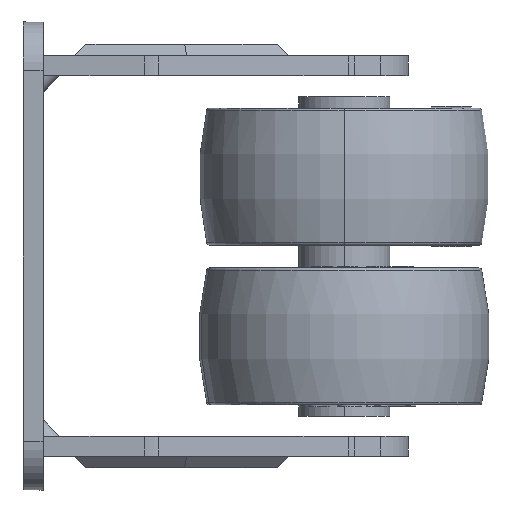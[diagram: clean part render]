
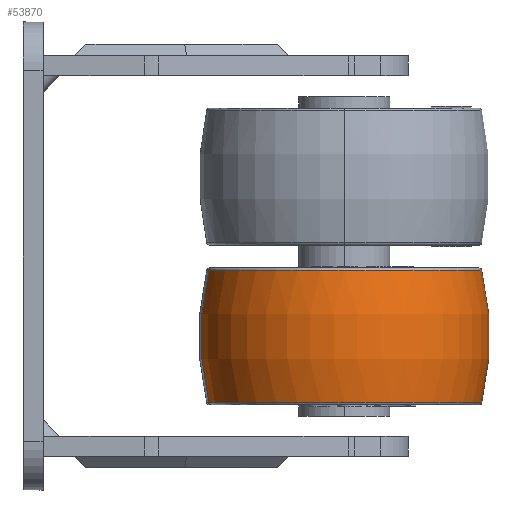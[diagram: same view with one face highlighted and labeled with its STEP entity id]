
A CAD part, left-side view. The second image highlights one B-rep face of the part: STEP entity #53870.
In plain terms, the highlighted toroidal (fillet/blend) face has major radius 23.25 mm and minor radius 48.75 mm.
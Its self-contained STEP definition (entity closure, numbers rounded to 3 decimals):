
#1228 = TOROIDAL_SURFACE ( 'NONE', #64703, -23.25, 48.75 ) ;
#1666 = AXIS2_PLACEMENT_3D ( 'NONE', #25641, #70426, #36494 ) ;
#7516 = AXIS2_PLACEMENT_3D ( 'NONE', #70399, #48378, #54291 ) ;
#8677 = CARTESIAN_POINT ( 'NONE',  ( 7.307, -63.384, -17.218 ) ) ;
#11231 = CIRCLE ( 'NONE', #69816, 48.75 ) ;
#12347 = CARTESIAN_POINT ( 'NONE',  ( 15.529, -110.01, -28.838 ) ) ;
#13078 = DIRECTION ( 'NONE',  ( 0.174, -0.985, 0. ) ) ;
#14050 = DIRECTION ( 'NONE',  ( -0.174, 0.985, 0. ) ) ;
#14513 = ORIENTED_EDGE ( 'NONE', *, *, #33257, .T. ) ;
#17038 = CARTESIAN_POINT ( 'NONE',  ( 15.675, -110.842, -40.457 ) ) ;
#17635 = ORIENTED_EDGE ( 'NONE', *, *, #55990, .F. ) ;
#18008 = CIRCLE ( 'NONE', #69623, 24.095 ) ;
#18080 = FACE_OUTER_BOUND ( 'NONE', #31165, .T. ) ;
#18464 = VERTEX_POINT ( 'NONE', #43134 ) ;
#21388 = ORIENTED_EDGE ( 'NONE', *, *, #53910, .T. ) ;
#22797 = CIRCLE ( 'NONE', #7516, 48.75 ) ;
#25641 = CARTESIAN_POINT ( 'NONE',  ( 11.491, -87.113, -17.218 ) ) ;
#28514 = CARTESIAN_POINT ( 'NONE',  ( 11.491, -87.113, -40.457 ) ) ;
#29874 = DIRECTION ( 'NONE',  ( -0.985, -0.174, 0. ) ) ;
#30343 = ORIENTED_EDGE ( 'NONE', *, *, #30573, .T. ) ;
#30573 = EDGE_CURVE ( 'NONE', #18464, #65689, #18008, .T. ) ;
#31165 = EDGE_LOOP ( 'NONE', ( #17635, #21388, #14513, #30343 ) ) ;
#33257 = EDGE_CURVE ( 'NONE', #36058, #18464, #11231, .T. ) ;
#36058 = VERTEX_POINT ( 'NONE', #8677 ) ;
#36494 = DIRECTION ( 'NONE',  ( -0.174, 0.985, 0. ) ) ;
#41785 = CARTESIAN_POINT ( 'NONE',  ( 15.675, -110.842, -17.218 ) ) ;
#43134 = CARTESIAN_POINT ( 'NONE',  ( 7.307, -63.384, -40.457 ) ) ;
#48378 = DIRECTION ( 'NONE',  ( 0.985, 0.174, 0. ) ) ;
#53870 = ADVANCED_FACE ( 'NONE', ( #18080 ), #1228, .T. ) ;
#53910 = EDGE_CURVE ( 'NONE', #55481, #36058, #56050, .T. ) ;
#54291 = DIRECTION ( 'NONE',  ( -0.174, 0.985, 0. ) ) ;
#55481 = VERTEX_POINT ( 'NONE', #41785 ) ;
#55990 = EDGE_CURVE ( 'NONE', #55481, #65689, #22797, .T. ) ;
#56050 = CIRCLE ( 'NONE', #1666, 24.095 ) ;
#59065 = CARTESIAN_POINT ( 'NONE',  ( 11.491, -87.113, -28.838 ) ) ;
#61426 = DIRECTION ( 'NONE',  ( 0., 0., 1. ) ) ;
#64703 = AXIS2_PLACEMENT_3D ( 'NONE', #59065, #65013, #14050 ) ;
#65013 = DIRECTION ( 'NONE',  ( 0., 0., -1. ) ) ;
#65689 = VERTEX_POINT ( 'NONE', #17038 ) ;
#67082 = DIRECTION ( 'NONE',  ( 0.174, -0.985, 0. ) ) ;
#69623 = AXIS2_PLACEMENT_3D ( 'NONE', #28514, #61426, #67082 ) ;
#69816 = AXIS2_PLACEMENT_3D ( 'NONE', #12347, #29874, #13078 ) ;
#70399 = CARTESIAN_POINT ( 'NONE',  ( 7.454, -64.216, -28.838 ) ) ;
#70426 = DIRECTION ( 'NONE',  ( 0., 0., -1. ) ) ;
